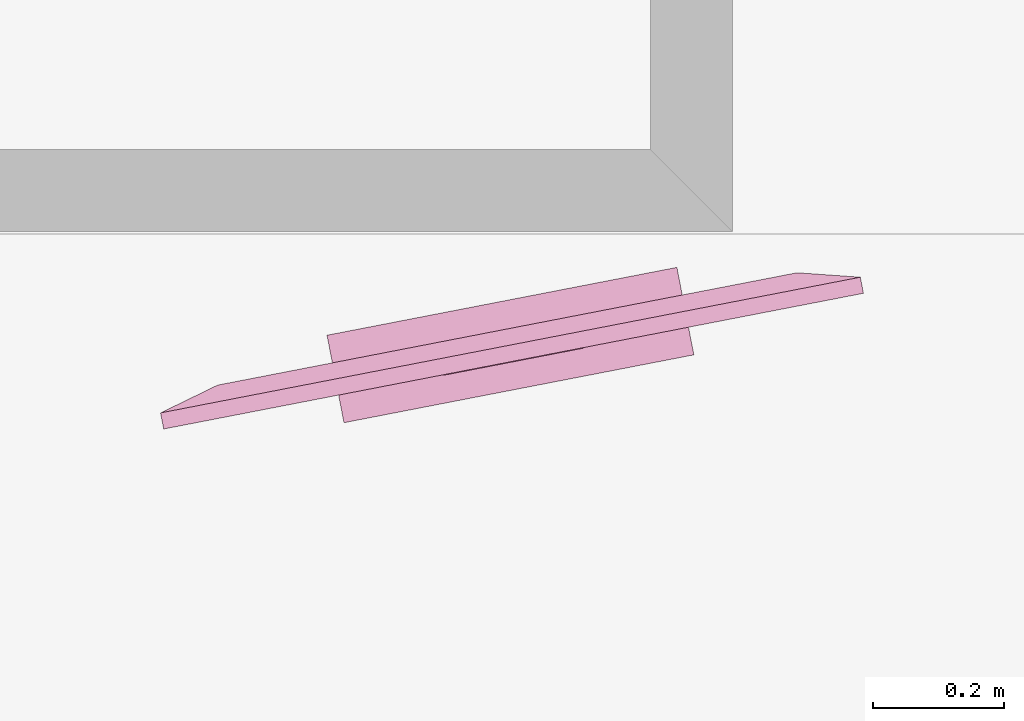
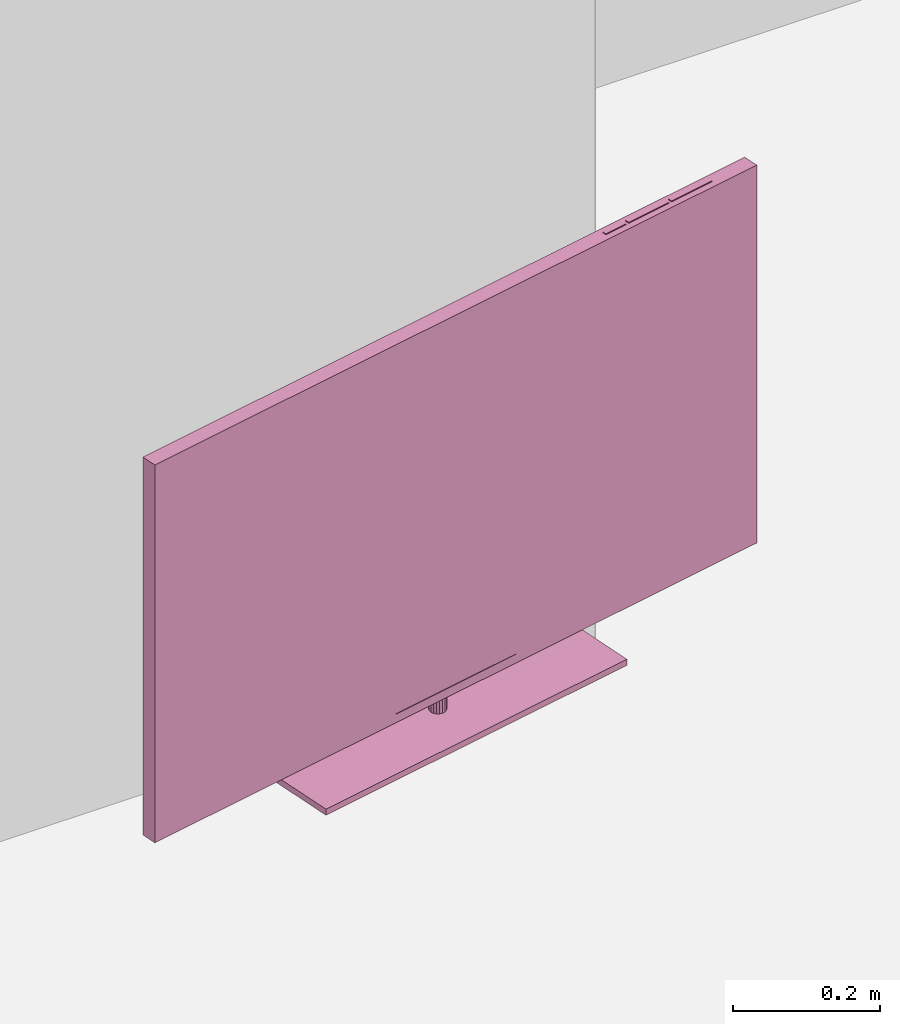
# One storey, part 170 of 172: 1 furnishing.
"""IFC2X3 building model written with IfcOpenShell, lengths in millimetres."""

from ifc_helpers import new_model, entity, si_unit, converted_unit, money_unit, direction, frame, origin_with_axes, place, context, subcontext, project, spatial, faceted_brep, material, material_list, type_object, element, save


model = new_model("IFC2X3")

# Units and contexts
model_context = context("Model", 3, precision=1e-05, world=origin_with_axes(), true_north=direction((0.0, 1.0)))
body_context = subcontext(model_context, "Body", "Model", "MODEL_VIEW")
ifc_project = project(units=[si_unit("LENGTHUNIT", "METRE", prefix="MILLI"), si_unit("AREAUNIT", "SQUARE_METRE"), si_unit("VOLUMEUNIT", "CUBIC_METRE"), converted_unit("PLANEANGLEUNIT", "DEGREE", entity("IfcPlaneAngleMeasure", 0.0174532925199), si_unit("PLANEANGLEUNIT", "RADIAN"), dimensions=[0, 0, 0, 0, 0, 0, 0]), si_unit("SOLIDANGLEUNIT", "STERADIAN"), money_unit("USD"), converted_unit("TIMEUNIT", "Year", entity("IfcTimeMeasure", 31556926.0), si_unit("TIMEUNIT", "SECOND"), dimensions=[0, 0, 0, 0, 0, 0, 0]), si_unit("MASSUNIT", "GRAM"), si_unit("THERMODYNAMICTEMPERATUREUNIT", "DEGREE_CELSIUS"), si_unit("LUMINOUSINTENSITYUNIT", "LUMEN")], contexts=[model_context])

# Site, building, storey
site_placement = place(None, origin_with_axes())
site = spatial("IfcSite", under=ifc_project, at=site_placement, Name="Site", CompositionType="ELEMENT")
building_placement = place(site_placement, origin_with_axes())
building = spatial("IfcBuilding", under=site, at=building_placement, Name="Building", CompositionType="ELEMENT")
storey_placement = place(building_placement, frame((0.0, 0.0, 3200.0), z_axis=(0.0, 0.0, 1.0), x_axis=(1.0, 0.0, 0.0)))
storey = spatial("IfcBuildingStorey", under=building, at=storey_placement, Name="3KORRUS", CompositionType="ELEMENT", Elevation=3200.0)

# Furnishing
ifc_material = material(Name="Background")
ifc_material_list = material_list([ifc_material])
furnishing_element_type = type_object("IfcFurnishingElementType", Name="Flat Panel TV 19")
furnishing_placement = place(storey_placement, frame((-15561.6056664, -6377.64952058, 100.0), z_axis=(0.0, 0.0, 1.0), x_axis=(0.981709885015, 0.190383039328, 0.0)))
element("IfcFurnishingElement", 1, at=furnishing_placement, inside=storey, type_object=furnishing_element_type, material=ifc_material_list, Name="FU - 005", context=body_context, shape_type="Brep", body=[
    faceted_brep([(-271.473, 92.868, 0.0), (-814.418, 92.868, 0.0), (-814.418, 92.868, 10.0), (-271.473, 92.868, 10.0), (-271.473, -42.868, 0.0), (-814.418, -42.868, 0.0), (-814.418, -42.868, 10.0), (-271.473, -42.868, 10.0)], [[[0, 1, 2, 3]], [[0, 4, 5, 1]], [[1, 5, 6, 2]], [[3, 2, 6, 7]], [[4, 0, 3, 7]], [[5, 4, 7, 6]]]),
    faceted_brep([(-535.498, 27.679, 66.0), (-533.37, 29.465, 66.0), (-531.199, 33.225, 66.0), (-530.445, 37.5, 66.0), (-531.199, 41.775, 66.0), (-533.37, 45.535, 66.0), (-536.695, 48.325, 66.0), (-540.775, 49.81, 66.0), (-545.116, 49.81, 66.0), (-549.195, 48.325, 66.0), (-552.521, 45.535, 66.0), (-554.691, 41.775, 66.0), (-555.445, 37.5, 66.0), (-554.691, 33.225, 66.0), (-552.521, 29.465, 66.0), (-550.393, 27.679, 66.0), (-536.695, 26.675, 62.25), (-536.695, 26.675, 10.0), (-533.37, 29.465, 10.0), (-531.199, 33.225, 10.0), (-530.445, 37.5, 10.0), (-531.199, 41.775, 10.0), (-533.37, 45.535, 10.0), (-536.695, 48.325, 10.0), (-540.775, 49.81, 10.0), (-545.116, 49.81, 10.0), (-549.195, 48.325, 10.0), (-552.521, 45.535, 10.0), (-554.691, 41.775, 10.0), (-555.445, 37.5, 10.0), (-554.691, 33.225, 10.0), (-552.521, 29.465, 10.0), (-549.195, 26.675, 10.0), (-549.195, 26.675, 62.25), (-545.116, 25.19, 56.709), (-540.775, 25.19, 56.709), (-540.775, 25.19, 10.0), (-545.116, 25.19, 10.0)], [[[0, 1, 2, 3, 4, 5, 6, 7, 8, 9, 10, 11, 12, 13, 14, 15]], [[16, 17, 18, 1, 0]], [[2, 1, 18, 19]], [[3, 2, 19, 20]], [[4, 3, 20, 21]], [[5, 4, 21, 22]], [[6, 5, 22, 23]], [[7, 6, 23, 24]], [[8, 7, 24, 25]], [[9, 8, 25, 26]], [[10, 9, 26, 27]], [[11, 10, 27, 28]], [[12, 11, 28, 29]], [[13, 12, 29, 30]], [[14, 13, 30, 31]], [[15, 14, 31, 32, 33]], [[33, 34, 35, 16, 0, 15]], [[35, 36, 17, 16]], [[27, 26, 25, 24, 23, 22, 21, 20, 19, 18, 17, 36, 37, 32, 31, 30, 29, 28]], [[33, 32, 37, 34]], [[34, 37, 36, 35]]]),
    faceted_brep([(-517.945, 34.378, 91.0), (-517.945, 50.0, 91.0), (-567.945, 50.0, 91.0), (-567.945, 34.378, 91.0), (-517.945, 27.679, 66.0), (-517.945, 50.0, 66.0), (-567.945, 50.0, 66.0), (-567.945, 27.679, 66.0)], [[[0, 1, 2, 3]], [[4, 5, 1, 0]], [[2, 1, 5, 6]], [[3, 2, 6, 7]], [[7, 4, 0, 3]], [[7, 6, 5, 4]]]),
    faceted_brep([(-1065.891, 0.0, 76.0), (-1065.891, 0.0, 664.313), (-1065.891, 1.0, 664.313), (-1065.891, 1.0, 76.0), (-20.0, 0.0, 76.0), (-20.0, 0.0, 664.313), (-20.0, 1.0, 664.313), (-20.0, 1.0, 76.0)], [[[0, 1, 2, 3]], [[0, 4, 5, 1]], [[1, 5, 6, 2]], [[3, 2, 6, 7]], [[4, 0, 3, 7]], [[5, 4, 7, 6]]]),
    faceted_brep([(0.0, 0.0, 684.313), (-1085.891, 0.0, 684.313), (-1085.891, 0.0, 56.0), (0.0, 0.0, 56.0), (-20.0, 0.0, 76.0), (-1065.891, 0.0, 76.0), (-1065.891, 0.0, 664.313), (-20.0, 0.0, 664.313), (0.0, 25.0, 684.313), (-1085.891, 25.0, 684.313), (-1085.891, 25.0, 56.0), (0.0, 25.0, 56.0), (-20.0, 1.0, 76.0), (-1065.891, 1.0, 76.0), (-1065.891, 1.0, 664.313), (-20.0, 1.0, 664.313), (-93.301, 50.0, 591.012), (-992.589, 50.0, 591.012), (-992.589, 50.0, 149.301), (-93.301, 50.0, 149.301)], [[[0, 1, 2, 3], [4, 5, 6, 7]], [[8, 9, 1, 0]], [[9, 10, 2, 1]], [[10, 11, 3, 2]], [[11, 8, 0, 3]], [[4, 12, 13, 5]], [[5, 13, 14, 6]], [[6, 14, 15, 7]], [[7, 15, 12, 4]], [[16, 17, 9, 8]], [[17, 18, 10, 9]], [[18, 19, 11, 10]], [[19, 16, 8, 11]], [[13, 12, 15, 14]], [[18, 17, 16, 19]]]),
    faceted_brep([(-542.945, -0.8, 61.0), (-553.804, -0.8, 66.0), (-553.804, 0.0, 66.0), (-542.945, 0.0, 61.0), (-532.086, -0.8, 66.0), (-434.356, -0.8, 71.0), (-651.534, -0.8, 71.0), (-651.534, 0.0, 71.0), (-434.356, 0.0, 71.0), (-532.086, 0.0, 66.0)], [[[0, 1, 2, 3]], [[0, 4, 5, 6, 1]], [[1, 6, 7, 2]], [[3, 2, 7, 8, 9]], [[4, 0, 3, 9]], [[5, 4, 9, 8]], [[6, 5, 8, 7]]]),
    faceted_brep([(-144.785, 10.0, 684.313), (-72.393, 10.0, 684.313), (-72.393, 10.0, 685.913), (-144.785, 10.0, 685.913), (-144.785, 16.25, 684.313), (-72.393, 16.25, 684.313), (-72.393, 16.25, 685.913), (-144.785, 16.25, 685.913)], [[[0, 1, 2, 3]], [[1, 0, 4, 5]], [[2, 1, 5, 6]], [[3, 2, 6, 7]], [[0, 3, 7, 4]], [[5, 4, 7, 6]]]),
    faceted_brep([(-222.349, 10.0, 684.313), (-149.956, 10.0, 684.313), (-149.956, 10.0, 685.913), (-222.349, 10.0, 685.913), (-222.349, 16.25, 684.313), (-149.956, 16.25, 684.313), (-149.956, 16.25, 685.913), (-222.349, 16.25, 685.913)], [[[0, 1, 2, 3]], [[1, 0, 4, 5]], [[2, 1, 5, 6]], [[3, 2, 6, 7]], [[0, 3, 7, 4]], [[5, 4, 7, 6]]]),
    faceted_brep([(-263.716, 10.0, 684.313), (-227.52, 10.0, 684.313), (-227.52, 10.0, 685.913), (-263.716, 10.0, 685.913), (-263.716, 16.25, 684.313), (-227.52, 16.25, 684.313), (-227.52, 16.25, 685.913), (-263.716, 16.25, 685.913)], [[[0, 1, 2, 3]], [[1, 0, 4, 5]], [[2, 1, 5, 6]], [[3, 2, 6, 7]], [[0, 3, 7, 4]], [[5, 4, 7, 6]]]),
])

save(model, "model.ifc")
